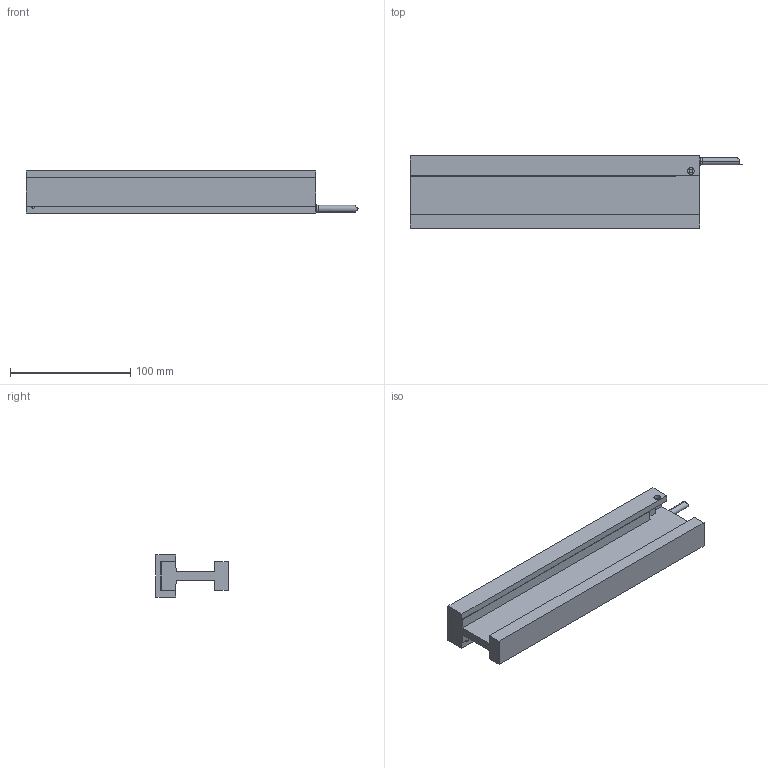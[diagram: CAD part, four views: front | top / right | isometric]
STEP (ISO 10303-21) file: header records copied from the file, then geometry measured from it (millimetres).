
FILE_DESCRIPTION (( 'STEP AP214' ), '1' );
FILE_NAME ('DX30F-C4-NH -REV.step', '2022-05-06T02:56:49', ( '' ), ( '' ), 'SwSTEP 2.0', 'SolidWorks 2020', '' );
FILE_SCHEMA (( 'AUTOMOTIVE_DESIGN' ));
Length unit declared in the file: millimetre
Products named in the file (1): DX30F-C4-NH -REV
Bounding box: 276 x 60 x 35 mm (x, y, z)
Volume: 255067.1 mm3; surface area: 81150.4 mm2
Topology: 3 solids, 4 shells, 125 faces, 310 edges, 177 vertices
Faces by surface type: cylinder 49, plane 40, cone 34, torus 2
Entity records: 4870 total; most frequent: DIRECTION 618, CARTESIAN_POINT 606, ORIENTED_EDGE 552, EDGE_CURVE 276, AXIS2_PLACEMENT_3D 225, VERTEX_POINT 177, VECTOR 168, LINE 168
